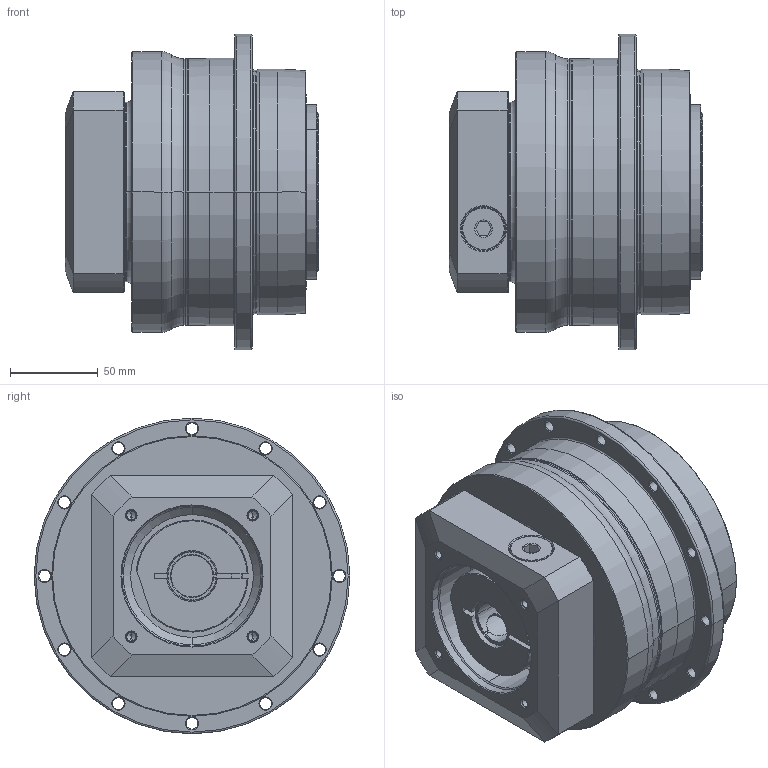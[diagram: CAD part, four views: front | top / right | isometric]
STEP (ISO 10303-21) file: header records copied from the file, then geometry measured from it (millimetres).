
FILE_DESCRIPTION((''),'2;1');
FILE_NAME('AH140_1ST_24-P0409500101_ASM','2016-08-10T',('d00435'),(''),'PRO/ENGINEER BY PARAMETRIC TECHNOLOGY CORPORATION, 2008410','PRO/ENGINEER BY PARAMETRIC TECHNOLOGY CORPORATION, 2008410','');
FILE_SCHEMA(('CONFIG_CONTROL_DESIGN'));
Length unit declared in the file: millimetre
Products named in the file (8): P0278500003; P0359500003; P1318500001; P0409500101; P0503500010; P0912500201; 21711418017; AH140_1ST_24-P0409500101_ASM
Assembly tree (7 placements, depth 2):
  AH140_1ST_24-P0409500101_ASM
    P0278500003
    P0359500003
    P1318500001
    P0409500101
    P0503500010
    P0912500201
    21711418017
Bounding box: 144.5 x 180 x 180 mm (x, y, z)
Volume: 2176631.1 mm3; surface area: 281874.4 mm2
Topology: 8 solids, 32 shells, 609 faces, 1415 edges, 859 vertices
Faces by surface type: cylinder 254, cone 168, plane 115, torus 58, bspline 14
Entity records: 22099 total; most frequent: CARTESIAN_POINT 7830, DIRECTION 3263, ORIENTED_EDGE 2642, AXIS2_PLACEMENT_3D 1385, EDGE_CURVE 1369, VERTEX_POINT 859, CIRCLE 765, EDGE_LOOP 730
